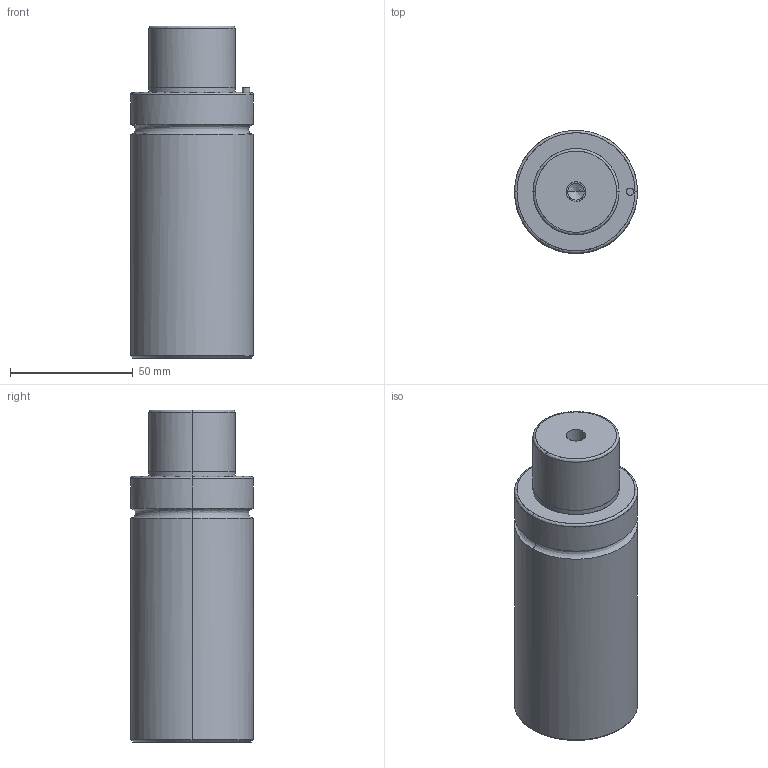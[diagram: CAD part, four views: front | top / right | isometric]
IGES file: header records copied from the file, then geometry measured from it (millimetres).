
Global section: file name: E:\UnigraphicsGraphicData\MISUMI_PRESS-PARTS\IGES\3d_gsm50-25_03933_r00.igs; native system: NX V5.0; preprocessor: UGS NX IGES V5.0; author: MISUMI; date: 20110105.160815; units: millimetre
Bounding box: 50 x 49.92 x 135 mm (x, y, z)
Surface area: 25422.8 mm2 (no closed solid volume)
Topology: 0 solids, 0 shells, 50 faces, 344 edges, 336 vertices
Faces by surface type: bspline 50
